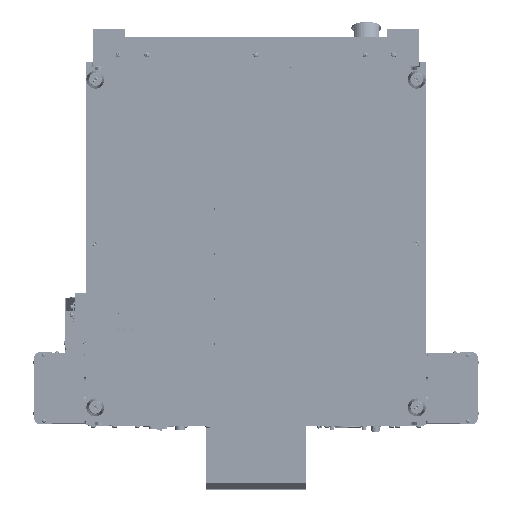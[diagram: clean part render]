
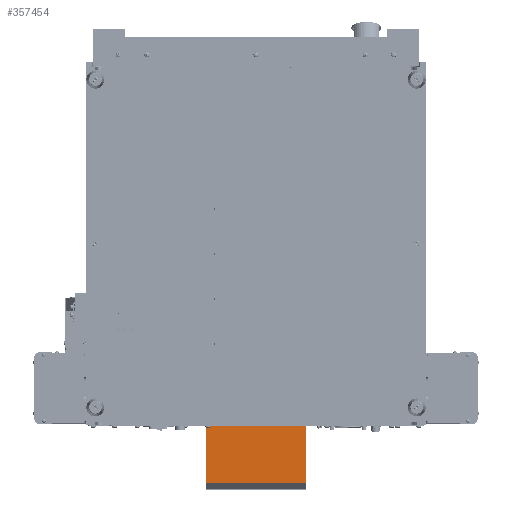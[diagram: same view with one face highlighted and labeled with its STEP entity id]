
A CAD part, front view. The second image highlights one B-rep face of the part: STEP entity #357454.
In plain terms, the highlighted planar face has unit normal (0, -1, 0).
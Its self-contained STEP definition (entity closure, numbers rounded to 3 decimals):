
#216109 = PLANE('',#216110);
#216110 = AXIS2_PLACEMENT_3D('',#216111,#216112,#216113);
#216111 = CARTESIAN_POINT('',(509.189,470.658,
    -153.991));
#216112 = DIRECTION('',(-1.,0.,0.));
#216113 = DIRECTION('',(0.,0.,1.));
#216638 = PLANE('',#216639);
#216639 = AXIS2_PLACEMENT_3D('',#216640,#216641,#216642);
#216640 = CARTESIAN_POINT('',(354.189,470.658,
    -153.991));
#216641 = DIRECTION('',(1.,0.,0.));
#216642 = DIRECTION('',(0.,0.,-1.));
#280431 = PLANE('',#280432);
#280432 = AXIS2_PLACEMENT_3D('',#280433,#280434,#280435);
#280433 = CARTESIAN_POINT('',(431.689,361.158,
    -55.191));
#280434 = DIRECTION('',(0.,0.,1.));
#280435 = DIRECTION('',(1.,0.,0.));
#280484 = VERTEX_POINT('',#280485);
#280485 = CARTESIAN_POINT('',(354.189,391.658,
    -55.191));
#280506 = EDGE_CURVE('',#280507,#280484,#280509,.T.);
#280507 = VERTEX_POINT('',#280508);
#280508 = CARTESIAN_POINT('',(356.952,391.658,
    -55.191));
#280509 = SURFACE_CURVE('',#280510,(#280514,#280521),.PCURVE_S1.);
#280510 = LINE('',#280511,#280512);
#280511 = CARTESIAN_POINT('',(509.189,391.658,
    -55.191));
#280512 = VECTOR('',#280513,1.);
#280513 = DIRECTION('',(-1.,0.,0.));
#280514 = PCURVE('',#280431,#280515);
#280515 = DEFINITIONAL_REPRESENTATION('',(#280516),#280520);
#280516 = LINE('',#280517,#280518);
#280517 = CARTESIAN_POINT('',(77.5,30.5));
#280518 = VECTOR('',#280519,1.);
#280519 = DIRECTION('',(-1.,0.));
#280520 = ( GEOMETRIC_REPRESENTATION_CONTEXT(2) 
PARAMETRIC_REPRESENTATION_CONTEXT() REPRESENTATION_CONTEXT('2D SPACE',''
  ) );
#280521 = PCURVE('',#280522,#280527);
#280522 = PLANE('',#280523);
#280523 = AXIS2_PLACEMENT_3D('',#280524,#280525,#280526);
#280524 = CARTESIAN_POINT('',(509.189,391.658,
    -55.191));
#280525 = DIRECTION('',(0.,-1.,0.));
#280526 = DIRECTION('',(0.,0.,1.));
#280527 = DEFINITIONAL_REPRESENTATION('',(#280528),#280532);
#280528 = LINE('',#280529,#280530);
#280529 = CARTESIAN_POINT('',(0.,0.));
#280530 = VECTOR('',#280531,1.);
#280531 = DIRECTION('',(0.,1.));
#280532 = ( GEOMETRIC_REPRESENTATION_CONTEXT(2) 
PARAMETRIC_REPRESENTATION_CONTEXT() REPRESENTATION_CONTEXT('2D SPACE',''
  ) );
#280627 = PLANE('',#280628);
#280628 = AXIS2_PLACEMENT_3D('',#280629,#280630,#280631);
#280629 = CARTESIAN_POINT('',(431.689,361.158,
    -55.191));
#280630 = DIRECTION('',(0.,0.,1.));
#280631 = DIRECTION('',(1.,0.,0.));
#280647 = VERTEX_POINT('',#280648);
#280648 = CARTESIAN_POINT('',(441.426,391.658,
    -55.191));
#280670 = EDGE_CURVE('',#280671,#280647,#280673,.T.);
#280671 = VERTEX_POINT('',#280672);
#280672 = CARTESIAN_POINT('',(509.189,391.658,
    -55.191));
#280673 = SURFACE_CURVE('',#280674,(#280678,#280685),.PCURVE_S1.);
#280674 = LINE('',#280675,#280676);
#280675 = CARTESIAN_POINT('',(509.189,391.658,
    -55.191));
#280676 = VECTOR('',#280677,1.);
#280677 = DIRECTION('',(-1.,0.,0.));
#280678 = PCURVE('',#280627,#280679);
#280679 = DEFINITIONAL_REPRESENTATION('',(#280680),#280684);
#280680 = LINE('',#280681,#280682);
#280681 = CARTESIAN_POINT('',(77.5,30.5));
#280682 = VECTOR('',#280683,1.);
#280683 = DIRECTION('',(-1.,0.));
#280684 = ( GEOMETRIC_REPRESENTATION_CONTEXT(2) 
PARAMETRIC_REPRESENTATION_CONTEXT() REPRESENTATION_CONTEXT('2D SPACE',''
  ) );
#280685 = PCURVE('',#280522,#280686);
#280686 = DEFINITIONAL_REPRESENTATION('',(#280687),#280691);
#280687 = LINE('',#280688,#280689);
#280688 = CARTESIAN_POINT('',(0.,0.));
#280689 = VECTOR('',#280690,1.);
#280690 = DIRECTION('',(0.,1.));
#280691 = ( GEOMETRIC_REPRESENTATION_CONTEXT(2) 
PARAMETRIC_REPRESENTATION_CONTEXT() REPRESENTATION_CONTEXT('2D SPACE',''
  ) );
#290142 = PLANE('',#290143);
#290143 = AXIS2_PLACEMENT_3D('',#290144,#290145,#290146);
#290144 = CARTESIAN_POINT('',(509.189,391.658,
    -55.191));
#290145 = DIRECTION('',(0.,0.,1.));
#290146 = DIRECTION('',(1.,0.,0.));
#335221 = EDGE_CURVE('',#280671,#335222,#335224,.T.);
#335222 = VERTEX_POINT('',#335223);
#335223 = CARTESIAN_POINT('',(509.189,391.658,
    -145.191));
#335224 = SURFACE_CURVE('',#335225,(#335229,#335236),.PCURVE_S1.);
#335225 = LINE('',#335226,#335227);
#335226 = CARTESIAN_POINT('',(509.189,391.658,
    -55.191));
#335227 = VECTOR('',#335228,1.);
#335228 = DIRECTION('',(0.,0.,-1.));
#335229 = PCURVE('',#216109,#335230);
#335230 = DEFINITIONAL_REPRESENTATION('',(#335231),#335235);
#335231 = LINE('',#335232,#335233);
#335232 = CARTESIAN_POINT('',(98.8,-79.));
#335233 = VECTOR('',#335234,1.);
#335234 = DIRECTION('',(-1.,0.));
#335235 = ( GEOMETRIC_REPRESENTATION_CONTEXT(2) 
PARAMETRIC_REPRESENTATION_CONTEXT() REPRESENTATION_CONTEXT('2D SPACE',''
  ) );
#335236 = PCURVE('',#280522,#335237);
#335237 = DEFINITIONAL_REPRESENTATION('',(#335238),#335242);
#335238 = LINE('',#335239,#335240);
#335239 = CARTESIAN_POINT('',(0.,0.));
#335240 = VECTOR('',#335241,1.);
#335241 = DIRECTION('',(-1.,0.));
#335242 = ( GEOMETRIC_REPRESENTATION_CONTEXT(2) 
PARAMETRIC_REPRESENTATION_CONTEXT() REPRESENTATION_CONTEXT('2D SPACE',''
  ) );
#335260 = PLANE('',#335261);
#335261 = AXIS2_PLACEMENT_3D('',#335262,#335263,#335264);
#335262 = CARTESIAN_POINT('',(509.189,401.658,
    -155.191));
#335263 = DIRECTION('',(0.,-0.707,
    -0.707));
#335264 = DIRECTION('',(1.,0.,0.));
#335909 = VERTEX_POINT('',#335910);
#335910 = CARTESIAN_POINT('',(354.189,391.658,
    -145.191));
#335931 = EDGE_CURVE('',#280484,#335909,#335932,.T.);
#335932 = SURFACE_CURVE('',#335933,(#335937,#335944),.PCURVE_S1.);
#335933 = LINE('',#335934,#335935);
#335934 = CARTESIAN_POINT('',(354.189,391.658,
    -55.191));
#335935 = VECTOR('',#335936,1.);
#335936 = DIRECTION('',(0.,0.,-1.));
#335937 = PCURVE('',#216638,#335938);
#335938 = DEFINITIONAL_REPRESENTATION('',(#335939),#335943);
#335939 = LINE('',#335940,#335941);
#335940 = CARTESIAN_POINT('',(-98.8,-79.));
#335941 = VECTOR('',#335942,1.);
#335942 = DIRECTION('',(1.,0.));
#335943 = ( GEOMETRIC_REPRESENTATION_CONTEXT(2) 
PARAMETRIC_REPRESENTATION_CONTEXT() REPRESENTATION_CONTEXT('2D SPACE',''
  ) );
#335944 = PCURVE('',#280522,#335945);
#335945 = DEFINITIONAL_REPRESENTATION('',(#335946),#335950);
#335946 = LINE('',#335947,#335948);
#335947 = CARTESIAN_POINT('',(0.,155.));
#335948 = VECTOR('',#335949,1.);
#335949 = DIRECTION('',(-1.,0.));
#335950 = ( GEOMETRIC_REPRESENTATION_CONTEXT(2) 
PARAMETRIC_REPRESENTATION_CONTEXT() REPRESENTATION_CONTEXT('2D SPACE',''
  ) );
#357454 = ADVANCED_FACE('',(#357455),#280522,.T.);
#357455 = FACE_BOUND('',#357456,.T.);
#357456 = EDGE_LOOP('',(#357457,#357458,#357479,#357480,#357481,#357502)
  );
#357457 = ORIENTED_EDGE('',*,*,#335931,.T.);
#357458 = ORIENTED_EDGE('',*,*,#357459,.T.);
#357459 = EDGE_CURVE('',#335909,#335222,#357460,.T.);
#357460 = SURFACE_CURVE('',#357461,(#357465,#357472),.PCURVE_S1.);
#357461 = LINE('',#357462,#357463);
#357462 = CARTESIAN_POINT('',(509.189,391.658,
    -145.191));
#357463 = VECTOR('',#357464,1.);
#357464 = DIRECTION('',(1.,0.,0.));
#357465 = PCURVE('',#280522,#357466);
#357466 = DEFINITIONAL_REPRESENTATION('',(#357467),#357471);
#357467 = LINE('',#357468,#357469);
#357468 = CARTESIAN_POINT('',(-90.,0.));
#357469 = VECTOR('',#357470,1.);
#357470 = DIRECTION('',(0.,-1.));
#357471 = ( GEOMETRIC_REPRESENTATION_CONTEXT(2) 
PARAMETRIC_REPRESENTATION_CONTEXT() REPRESENTATION_CONTEXT('2D SPACE',''
  ) );
#357472 = PCURVE('',#335260,#357473);
#357473 = DEFINITIONAL_REPRESENTATION('',(#357474),#357478);
#357474 = LINE('',#357475,#357476);
#357475 = CARTESIAN_POINT('',(0.,14.142));
#357476 = VECTOR('',#357477,1.);
#357477 = DIRECTION('',(1.,0.));
#357478 = ( GEOMETRIC_REPRESENTATION_CONTEXT(2) 
PARAMETRIC_REPRESENTATION_CONTEXT() REPRESENTATION_CONTEXT('2D SPACE',''
  ) );
#357479 = ORIENTED_EDGE('',*,*,#335221,.F.);
#357480 = ORIENTED_EDGE('',*,*,#280670,.T.);
#357481 = ORIENTED_EDGE('',*,*,#357482,.T.);
#357482 = EDGE_CURVE('',#280647,#280507,#357483,.T.);
#357483 = SURFACE_CURVE('',#357484,(#357488,#357495),.PCURVE_S1.);
#357484 = LINE('',#357485,#357486);
#357485 = CARTESIAN_POINT('',(509.189,391.658,
    -55.191));
#357486 = VECTOR('',#357487,1.);
#357487 = DIRECTION('',(-1.,0.,0.));
#357488 = PCURVE('',#280522,#357489);
#357489 = DEFINITIONAL_REPRESENTATION('',(#357490),#357494);
#357490 = LINE('',#357491,#357492);
#357491 = CARTESIAN_POINT('',(0.,0.));
#357492 = VECTOR('',#357493,1.);
#357493 = DIRECTION('',(0.,1.));
#357494 = ( GEOMETRIC_REPRESENTATION_CONTEXT(2) 
PARAMETRIC_REPRESENTATION_CONTEXT() REPRESENTATION_CONTEXT('2D SPACE',''
  ) );
#357495 = PCURVE('',#290142,#357496);
#357496 = DEFINITIONAL_REPRESENTATION('',(#357497),#357501);
#357497 = LINE('',#357498,#357499);
#357498 = CARTESIAN_POINT('',(0.,0.));
#357499 = VECTOR('',#357500,1.);
#357500 = DIRECTION('',(-1.,0.));
#357501 = ( GEOMETRIC_REPRESENTATION_CONTEXT(2) 
PARAMETRIC_REPRESENTATION_CONTEXT() REPRESENTATION_CONTEXT('2D SPACE',''
  ) );
#357502 = ORIENTED_EDGE('',*,*,#280506,.T.);
